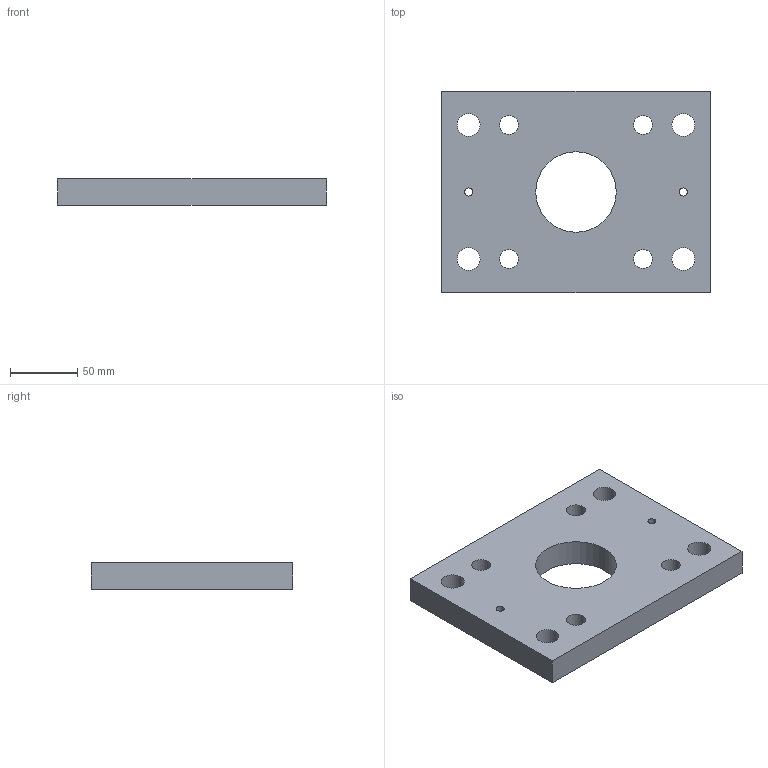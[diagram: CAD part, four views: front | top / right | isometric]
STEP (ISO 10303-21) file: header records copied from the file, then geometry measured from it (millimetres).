
FILE_DESCRIPTION (( 'STEP AP203' ), '1' );
FILE_NAME ('3DPS63.STEP', '2002-11-20T10:13:14', ( 'Francesc' ), ( 'propia' ), 'SwSTEP 2.0', 'SolidWorks 2001039', '' );
FILE_SCHEMA (( 'CONFIG_CONTROL_DESIGN' ));
Length unit declared in the file: millimetre
Products named in the file (1): 2
Bounding box: 200 x 150 x 20 mm (x, y, z)
Volume: 511852.8 mm3; surface area: 77500.4 mm2
Topology: 1 solids, 1 shells, 28 faces, 78 edges, 52 vertices
Faces by surface type: cylinder 22, plane 6
Entity records: 1047 total; most frequent: DIRECTION 180, CARTESIAN_POINT 159, ORIENTED_EDGE 156, EDGE_CURVE 78, AXIS2_PLACEMENT_3D 73, VERTEX_POINT 52, EDGE_LOOP 50, CIRCLE 44
